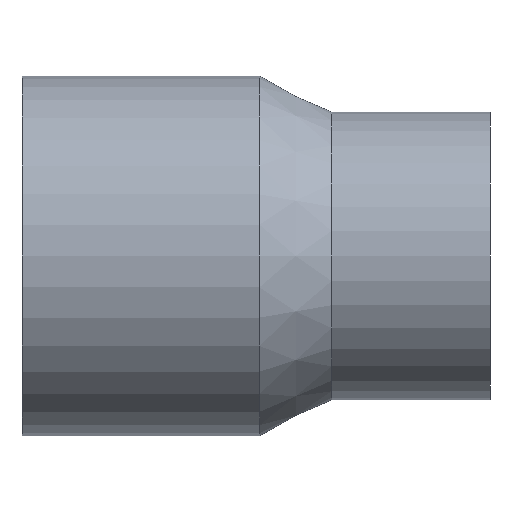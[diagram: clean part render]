
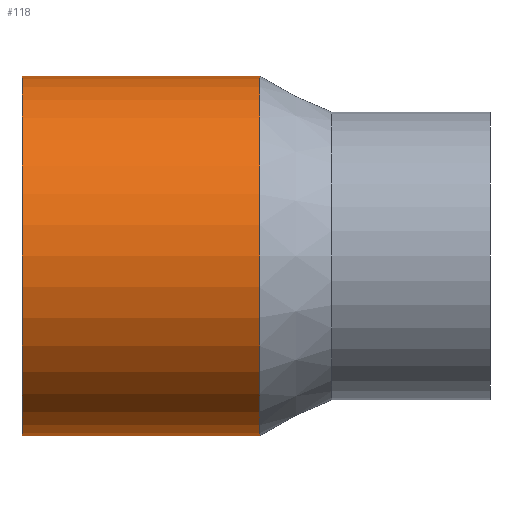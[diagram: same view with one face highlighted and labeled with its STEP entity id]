
A CAD part, front view. The second image highlights one B-rep face of the part: STEP entity #118.
In plain terms, the highlighted cylindrical face has radius 25 mm (diameter 50 mm), a full revolution.
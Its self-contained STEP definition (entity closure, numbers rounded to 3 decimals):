
#18=CYLINDRICAL_SURFACE('',#134,25.);
#25=FACE_BOUND('',#49,.T.);
#35=FACE_OUTER_BOUND('',#48,.T.);
#48=EDGE_LOOP('',(#98));
#49=EDGE_LOOP('',(#99));
#65=CIRCLE('',#133,25.);
#66=CIRCLE('',#135,25.);
#75=VERTEX_POINT('',#199);
#76=VERTEX_POINT('',#202);
#85=EDGE_CURVE('',#75,#75,#65,.T.);
#86=EDGE_CURVE('',#76,#76,#66,.T.);
#98=ORIENTED_EDGE('',*,*,#85,.T.);
#99=ORIENTED_EDGE('',*,*,#86,.F.);
#118=ADVANCED_FACE('',(#35,#25),#18,.T.);
#133=AXIS2_PLACEMENT_3D('',#200,#161,#162);
#134=AXIS2_PLACEMENT_3D('',#201,#163,#164);
#135=AXIS2_PLACEMENT_3D('',#203,#165,#166);
#161=DIRECTION('center_axis',(-1.,0.,0.));
#162=DIRECTION('ref_axis',(0.,0.,1.));
#163=DIRECTION('center_axis',(-1.,0.,0.));
#164=DIRECTION('ref_axis',(0.,-1.,0.));
#165=DIRECTION('center_axis',(-1.,0.,0.));
#166=DIRECTION('ref_axis',(0.,0.,1.));
#199=CARTESIAN_POINT('',(0.5,-25.,0.));
#200=CARTESIAN_POINT('Origin',(0.5,0.,0.));
#201=CARTESIAN_POINT('Origin',(-16.,0.,0.));
#202=CARTESIAN_POINT('',(-32.5,-25.,0.));
#203=CARTESIAN_POINT('Origin',(-32.5,0.,0.));
